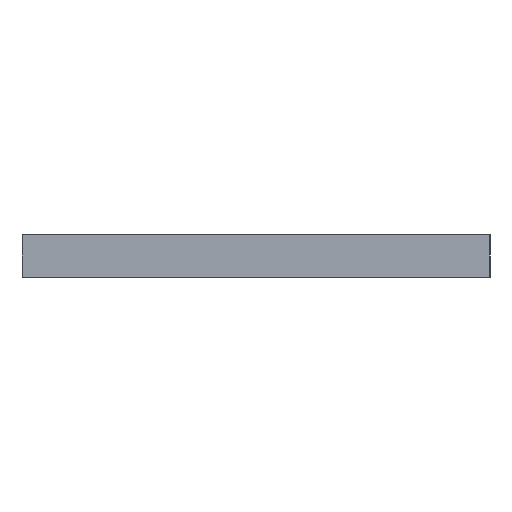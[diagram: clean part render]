
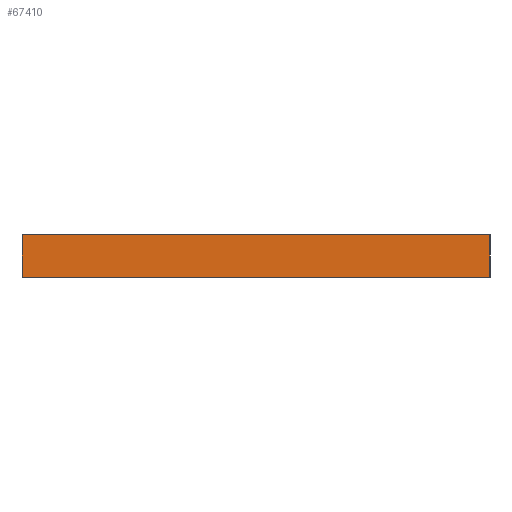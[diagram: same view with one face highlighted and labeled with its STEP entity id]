
A CAD part, left-side view. The second image highlights one B-rep face of the part: STEP entity #67410.
In plain terms, the highlighted planar face has unit normal (-1, 0, 0).
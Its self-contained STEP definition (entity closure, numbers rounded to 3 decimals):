
#22 = VERTEX_POINT('',#23);
#23 = CARTESIAN_POINT('',(0.,0.,0.));
#32 = PLANE('',#33);
#33 = AXIS2_PLACEMENT_3D('',#34,#35,#36);
#34 = CARTESIAN_POINT('',(0.,0.,0.));
#35 = DIRECTION('',(0.,1.,0.));
#36 = DIRECTION('',(1.,0.,0.));
#44 = PLANE('',#45);
#45 = AXIS2_PLACEMENT_3D('',#46,#47,#48);
#46 = CARTESIAN_POINT('',(77.5,11.,0.));
#47 = DIRECTION('',(0.,0.,1.));
#48 = DIRECTION('',(1.,0.,-0.));
#56 = EDGE_CURVE('',#22,#57,#59,.T.);
#57 = VERTEX_POINT('',#58);
#58 = CARTESIAN_POINT('',(0.,0.,2.));
#59 = SURFACE_CURVE('',#60,(#64,#71),.PCURVE_S1.);
#60 = LINE('',#61,#62);
#61 = CARTESIAN_POINT('',(0.,0.,0.));
#62 = VECTOR('',#63,1.);
#63 = DIRECTION('',(0.,0.,1.));
#64 = PCURVE('',#32,#65);
#65 = DEFINITIONAL_REPRESENTATION('',(#66),#70);
#66 = LINE('',#67,#68);
#67 = CARTESIAN_POINT('',(0.,0.));
#68 = VECTOR('',#69,1.);
#69 = DIRECTION('',(0.,-1.));
#70 = ( GEOMETRIC_REPRESENTATION_CONTEXT(2) 
PARAMETRIC_REPRESENTATION_CONTEXT() REPRESENTATION_CONTEXT('2D SPACE',''
  ) );
#71 = PCURVE('',#72,#77);
#72 = PLANE('',#73);
#73 = AXIS2_PLACEMENT_3D('',#74,#75,#76);
#74 = CARTESIAN_POINT('',(0.,22.,0.));
#75 = DIRECTION('',(1.,0.,-0.));
#76 = DIRECTION('',(0.,-1.,0.));
#77 = DEFINITIONAL_REPRESENTATION('',(#78),#82);
#78 = LINE('',#79,#80);
#79 = CARTESIAN_POINT('',(22.,0.));
#80 = VECTOR('',#81,1.);
#81 = DIRECTION('',(0.,-1.));
#82 = ( GEOMETRIC_REPRESENTATION_CONTEXT(2) 
PARAMETRIC_REPRESENTATION_CONTEXT() REPRESENTATION_CONTEXT('2D SPACE',''
  ) );
#100 = PLANE('',#101);
#101 = AXIS2_PLACEMENT_3D('',#102,#103,#104);
#102 = CARTESIAN_POINT('',(77.5,11.,2.));
#103 = DIRECTION('',(0.,0.,1.));
#104 = DIRECTION('',(1.,0.,-0.));
#10545 = VERTEX_POINT('',#10546);
#10546 = CARTESIAN_POINT('',(0.,22.,0.));
#10560 = PLANE('',#10561);
#10561 = AXIS2_PLACEMENT_3D('',#10562,#10563,#10564);
#10562 = CARTESIAN_POINT('',(155.,22.,0.));
#10563 = DIRECTION('',(0.,-1.,0.));
#10564 = DIRECTION('',(-1.,0.,0.));
#10572 = EDGE_CURVE('',#10545,#22,#10573,.T.);
#10573 = SURFACE_CURVE('',#10574,(#10578,#10585),.PCURVE_S1.);
#10574 = LINE('',#10575,#10576);
#10575 = CARTESIAN_POINT('',(0.,22.,0.));
#10576 = VECTOR('',#10577,1.);
#10577 = DIRECTION('',(0.,-1.,0.));
#10578 = PCURVE('',#44,#10579);
#10579 = DEFINITIONAL_REPRESENTATION('',(#10580),#10584);
#10580 = LINE('',#10581,#10582);
#10581 = CARTESIAN_POINT('',(-77.5,11.));
#10582 = VECTOR('',#10583,1.);
#10583 = DIRECTION('',(0.,-1.));
#10584 = ( GEOMETRIC_REPRESENTATION_CONTEXT(2) 
PARAMETRIC_REPRESENTATION_CONTEXT() REPRESENTATION_CONTEXT('2D SPACE',''
  ) );
#10585 = PCURVE('',#72,#10586);
#10586 = DEFINITIONAL_REPRESENTATION('',(#10587),#10591);
#10587 = LINE('',#10588,#10589);
#10588 = CARTESIAN_POINT('',(0.,0.));
#10589 = VECTOR('',#10590,1.);
#10590 = DIRECTION('',(1.,0.));
#10591 = ( GEOMETRIC_REPRESENTATION_CONTEXT(2) 
PARAMETRIC_REPRESENTATION_CONTEXT() REPRESENTATION_CONTEXT('2D SPACE',''
  ) );
#10697 = EDGE_CURVE('',#10698,#57,#10700,.T.);
#10698 = VERTEX_POINT('',#10699);
#10699 = CARTESIAN_POINT('',(0.,22.,2.));
#10700 = SURFACE_CURVE('',#10701,(#10705,#10712),.PCURVE_S1.);
#10701 = LINE('',#10702,#10703);
#10702 = CARTESIAN_POINT('',(0.,22.,2.));
#10703 = VECTOR('',#10704,1.);
#10704 = DIRECTION('',(0.,-1.,0.));
#10705 = PCURVE('',#100,#10706);
#10706 = DEFINITIONAL_REPRESENTATION('',(#10707),#10711);
#10707 = LINE('',#10708,#10709);
#10708 = CARTESIAN_POINT('',(-77.5,11.));
#10709 = VECTOR('',#10710,1.);
#10710 = DIRECTION('',(0.,-1.));
#10711 = ( GEOMETRIC_REPRESENTATION_CONTEXT(2) 
PARAMETRIC_REPRESENTATION_CONTEXT() REPRESENTATION_CONTEXT('2D SPACE',''
  ) );
#10712 = PCURVE('',#72,#10713);
#10713 = DEFINITIONAL_REPRESENTATION('',(#10714),#10718);
#10714 = LINE('',#10715,#10716);
#10715 = CARTESIAN_POINT('',(0.,-2.));
#10716 = VECTOR('',#10717,1.);
#10717 = DIRECTION('',(1.,0.));
#10718 = ( GEOMETRIC_REPRESENTATION_CONTEXT(2) 
PARAMETRIC_REPRESENTATION_CONTEXT() REPRESENTATION_CONTEXT('2D SPACE',''
  ) );
#67410 = ADVANCED_FACE('',(#67411),#72,.F.);
#67411 = FACE_BOUND('',#67412,.F.);
#67412 = EDGE_LOOP('',(#67413,#67434,#67435,#67436));
#67413 = ORIENTED_EDGE('',*,*,#67414,.T.);
#67414 = EDGE_CURVE('',#10545,#10698,#67415,.T.);
#67415 = SURFACE_CURVE('',#67416,(#67420,#67427),.PCURVE_S1.);
#67416 = LINE('',#67417,#67418);
#67417 = CARTESIAN_POINT('',(0.,22.,0.));
#67418 = VECTOR('',#67419,1.);
#67419 = DIRECTION('',(0.,0.,1.));
#67420 = PCURVE('',#72,#67421);
#67421 = DEFINITIONAL_REPRESENTATION('',(#67422),#67426);
#67422 = LINE('',#67423,#67424);
#67423 = CARTESIAN_POINT('',(0.,0.));
#67424 = VECTOR('',#67425,1.);
#67425 = DIRECTION('',(0.,-1.));
#67426 = ( GEOMETRIC_REPRESENTATION_CONTEXT(2) 
PARAMETRIC_REPRESENTATION_CONTEXT() REPRESENTATION_CONTEXT('2D SPACE',''
  ) );
#67427 = PCURVE('',#10560,#67428);
#67428 = DEFINITIONAL_REPRESENTATION('',(#67429),#67433);
#67429 = LINE('',#67430,#67431);
#67430 = CARTESIAN_POINT('',(155.,0.));
#67431 = VECTOR('',#67432,1.);
#67432 = DIRECTION('',(0.,-1.));
#67433 = ( GEOMETRIC_REPRESENTATION_CONTEXT(2) 
PARAMETRIC_REPRESENTATION_CONTEXT() REPRESENTATION_CONTEXT('2D SPACE',''
  ) );
#67434 = ORIENTED_EDGE('',*,*,#10697,.T.);
#67435 = ORIENTED_EDGE('',*,*,#56,.F.);
#67436 = ORIENTED_EDGE('',*,*,#10572,.F.);
